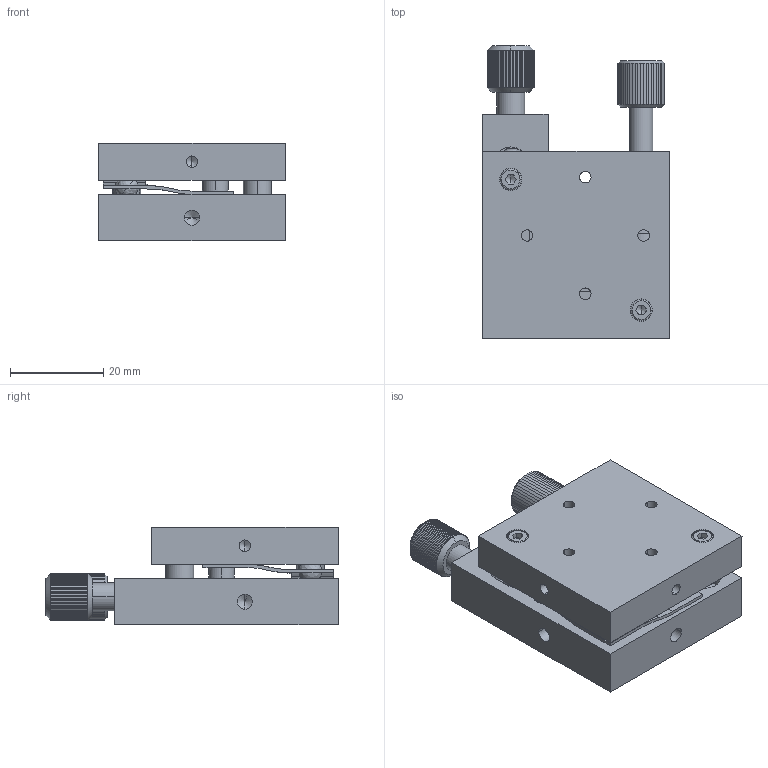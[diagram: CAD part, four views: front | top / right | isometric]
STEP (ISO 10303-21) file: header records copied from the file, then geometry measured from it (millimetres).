
FILE_DESCRIPTION (( 'STEP AP203' ), '1' );
FILE_NAME ('5OM122TE.STEP', '2007-05-09T10:57:06', ( 'STANDA' ), ( '' ), 'SwSTEP 2.0', 'SolidWorks 2003240', '' );
FILE_SCHEMA (( 'CONFIG_CONTROL_DESIGN' ));
Length unit declared in the file: millimetre
Products named in the file (1): 5OM122TE
Bounding box: 40 x 62.68 x 20.99 mm (x, y, z)
Volume: 24603.8 mm3; surface area: 13672.4 mm2
Topology: 1 solids, 7 shells, 924 faces, 2349 edges, 1451 vertices
Faces by surface type: plane 586, bspline 132, cylinder 130, cone 74, torus 2
Entity records: 30245 total; most frequent: CARTESIAN_POINT 8993, ORIENTED_EDGE 4614, DIRECTION 3995, EDGE_CURVE 2307, VERTEX_POINT 1451, AXIS2_PLACEMENT_3D 1349, VECTOR 1297, LINE 1297
